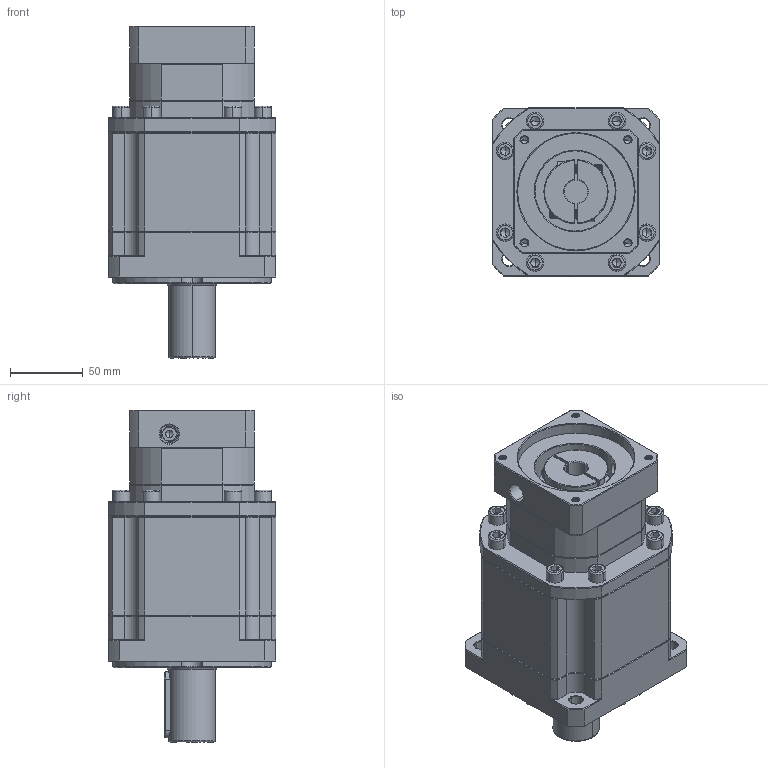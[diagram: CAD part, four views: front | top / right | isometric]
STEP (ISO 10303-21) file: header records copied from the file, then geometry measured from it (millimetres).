
FILE_DESCRIPTION (( 'STEP AP214' ), '1' );
FILE_NAME ('ZB115A-D32-L3-16-80-100-M6.step', '2023-03-03T09:56:25', ( '' ), ( 'Microsoft' ), 'SwSTEP 2.0', 'SolidWorks 2016', '' );
FILE_SCHEMA (( 'AUTOMOTIVE_DESIGN' ));
Length unit declared in the file: millimetre
Products named in the file (1): ZB115A-D32-L3-16-80-100-M6
Bounding box: 115 x 115 x 227.5 mm (x, y, z)
Volume: 1697366.9 mm3; surface area: 146256 mm2
Topology: 5 solids, 6 shells, 2134 faces, 5507 edges, 3470 vertices
Faces by surface type: plane 1010, cylinder 425, cone 355, bspline 329, torus 15
Entity records: 112611 total; most frequent: CARTESIAN_POINT 40112, ORIENTED_EDGE 10938, DIRECTION 8966, EDGE_CURVE 5469, VERTEX_POINT 3470, VECTOR 3416, LINE 3416, AXIS2_PLACEMENT_3D 2775
